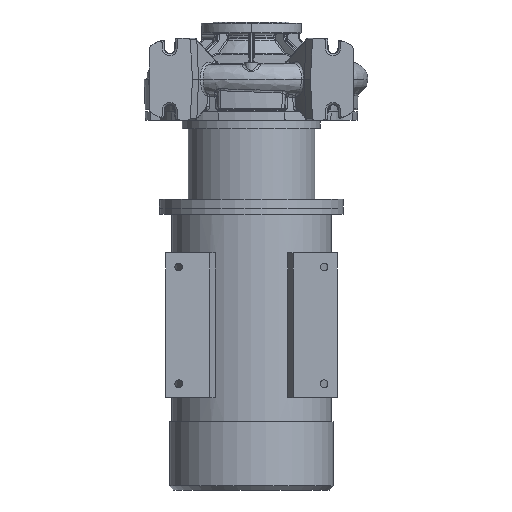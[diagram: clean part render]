
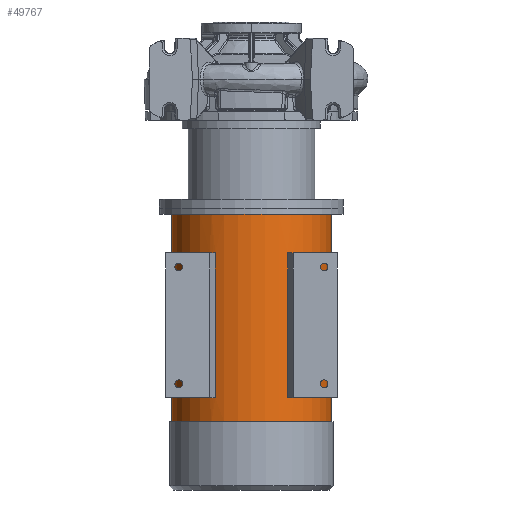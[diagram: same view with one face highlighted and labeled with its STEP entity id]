
A CAD part, front view. The second image highlights one B-rep face of the part: STEP entity #49767.
In plain terms, the highlighted cylindrical face has radius 195 mm (diameter 390 mm), a partial arc.
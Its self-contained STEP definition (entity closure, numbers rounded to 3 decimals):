
#12 = VECTOR ( 'NONE', #37400, 1000. ) ;
#2118 = VERTEX_POINT ( 'NONE', #72046 ) ;
#2540 = VECTOR ( 'NONE', #66927, 1000. ) ;
#2651 = VERTEX_POINT ( 'NONE', #27589 ) ;
#3274 = DIRECTION ( 'NONE',  ( -1., 0., 0. ) ) ;
#3698 = LINE ( 'NONE', #92478, #77367 ) ;
#4647 = ORIENTED_EDGE ( 'NONE', *, *, #33806, .T. ) ;
#5630 = FACE_BOUND ( 'NONE', #70150, .T. ) ;
#5697 = CARTESIAN_POINT ( 'NONE',  ( 0., 0., -838.8 ) ) ;
#5837 = ORIENTED_EDGE ( 'NONE', *, *, #9714, .F. ) ;
#8211 = AXIS2_PLACEMENT_3D ( 'NONE', #24956, #74934, #25263 ) ;
#9373 = CARTESIAN_POINT ( 'NONE',  ( 195., 0., -838.8 ) ) ;
#9714 = EDGE_CURVE ( 'NONE', #17763, #51097, #88187, .T. ) ;
#10422 = CARTESIAN_POINT ( 'NONE',  ( -102.509, -165.882, -1005.8 ) ) ;
#12562 = CARTESIAN_POINT ( 'NONE',  ( 88.564, -173.728, -780.3 ) ) ;
#16354 = VERTEX_POINT ( 'NONE', #51050 ) ;
#16417 = CIRCLE ( 'NONE', #8211, 195. ) ;
#17197 = CARTESIAN_POINT ( 'NONE',  ( 102.509, -165.882, -425.3 ) ) ;
#17429 = DIRECTION ( 'NONE',  ( -1., 0., 0. ) ) ;
#17441 = EDGE_CURVE ( 'NONE', #51097, #45296, #45331, .T. ) ;
#17484 = EDGE_CURVE ( 'NONE', #17763, #2651, #87850, .T. ) ;
#17712 = CARTESIAN_POINT ( 'NONE',  ( -88.564, -173.728, -425.3 ) ) ;
#17763 = VERTEX_POINT ( 'NONE', #74866 ) ;
#18792 = ORIENTED_EDGE ( 'NONE', *, *, #32421, .F. ) ;
#20415 = ORIENTED_EDGE ( 'NONE', *, *, #17441, .F. ) ;
#21226 = ORIENTED_EDGE ( 'NONE', *, *, #27198, .T. ) ;
#21420 = LINE ( 'NONE', #10422, #2540 ) ;
#22203 = EDGE_CURVE ( 'NONE', #29530, #16354, #70809, .T. ) ;
#24956 = CARTESIAN_POINT ( 'NONE',  ( 0., 0., -780.3 ) ) ;
#25069 = EDGE_CURVE ( 'NONE', #2118, #54634, #3698, .T. ) ;
#25263 = DIRECTION ( 'NONE',  ( -1., 0., 0. ) ) ;
#25920 = CARTESIAN_POINT ( 'NONE',  ( 88.564, -173.728, -1005.8 ) ) ;
#26829 = DIRECTION ( 'NONE',  ( 0., 0., -1. ) ) ;
#26853 = ORIENTED_EDGE ( 'NONE', *, *, #86162, .F. ) ;
#27198 = EDGE_CURVE ( 'NONE', #2651, #45296, #77281, .T. ) ;
#27589 = CARTESIAN_POINT ( 'NONE',  ( -195., 0., -330.8 ) ) ;
#27916 = CARTESIAN_POINT ( 'NONE',  ( -195., 0., -838.8 ) ) ;
#29530 = VERTEX_POINT ( 'NONE', #17197 ) ;
#30651 = CARTESIAN_POINT ( 'NONE',  ( 0., 0., -425.3 ) ) ;
#32281 = FACE_OUTER_BOUND ( 'NONE', #62553, .T. ) ;
#32316 = AXIS2_PLACEMENT_3D ( 'NONE', #30651, #45944, #3274 ) ;
#32421 = EDGE_CURVE ( 'NONE', #53053, #2118, #85718, .T. ) ;
#32742 = DIRECTION ( 'NONE',  ( 0., 0., 1. ) ) ;
#33247 = VERTEX_POINT ( 'NONE', #12562 ) ;
#33337 = DIRECTION ( 'NONE',  ( -1., 0., 0. ) ) ;
#33806 = EDGE_CURVE ( 'NONE', #67509, #29530, #35324, .T. ) ;
#34891 = AXIS2_PLACEMENT_3D ( 'NONE', #71805, #57445, #40832 ) ;
#35324 = CIRCLE ( 'NONE', #57936, 195. ) ;
#36087 = DIRECTION ( 'NONE',  ( 0., 0., -1. ) ) ;
#36180 = ORIENTED_EDGE ( 'NONE', *, *, #25069, .F. ) ;
#37400 = DIRECTION ( 'NONE',  ( 0., 0., -1. ) ) ;
#39150 = EDGE_CURVE ( 'NONE', #33247, #67509, #53044, .T. ) ;
#39527 = DIRECTION ( 'NONE',  ( 0., 0., 1. ) ) ;
#40832 = DIRECTION ( 'NONE',  ( -1., 0., 0. ) ) ;
#41256 = CYLINDRICAL_SURFACE ( 'NONE', #80992, 195. ) ;
#41739 = VECTOR ( 'NONE', #46866, 1000. ) ;
#42523 = CARTESIAN_POINT ( 'NONE',  ( -102.509, -165.882, -425.3 ) ) ;
#42809 = AXIS2_PLACEMENT_3D ( 'NONE', #66767, #39527, #17429 ) ;
#43713 = CARTESIAN_POINT ( 'NONE',  ( -102.509, -165.882, -780.3 ) ) ;
#45296 = VERTEX_POINT ( 'NONE', #27916 ) ;
#45331 = CIRCLE ( 'NONE', #84619, 195. ) ;
#45471 = EDGE_CURVE ( 'NONE', #51780, #53053, #21420, .T. ) ;
#45944 = DIRECTION ( 'NONE',  ( 0., 0., 1. ) ) ;
#46866 = DIRECTION ( 'NONE',  ( 0., 0., -1. ) ) ;
#47975 = FACE_BOUND ( 'NONE', #66550, .T. ) ;
#49738 = ORIENTED_EDGE ( 'NONE', *, *, #45471, .F. ) ;
#49767 = ADVANCED_FACE ( 'NONE', ( #32281, #5630, #47975 ), #41256, .T. ) ;
#51050 = CARTESIAN_POINT ( 'NONE',  ( 102.509, -165.882, -780.3 ) ) ;
#51097 = VERTEX_POINT ( 'NONE', #9373 ) ;
#51780 = VERTEX_POINT ( 'NONE', #42523 ) ;
#53044 = LINE ( 'NONE', #25920, #59773 ) ;
#53053 = VERTEX_POINT ( 'NONE', #43713 ) ;
#54627 = DIRECTION ( 'NONE',  ( 0., 0., 1. ) ) ;
#54634 = VERTEX_POINT ( 'NONE', #17712 ) ;
#55239 = CARTESIAN_POINT ( 'NONE',  ( 0., 0., -425.3 ) ) ;
#57445 = DIRECTION ( 'NONE',  ( 0., 0., -1. ) ) ;
#57936 = AXIS2_PLACEMENT_3D ( 'NONE', #55239, #32742, #33337 ) ;
#59773 = VECTOR ( 'NONE', #54627, 1000. ) ;
#62553 = EDGE_LOOP ( 'NONE', ( #5837, #68405, #21226, #20415 ) ) ;
#63595 = ORIENTED_EDGE ( 'NONE', *, *, #39150, .T. ) ;
#66550 = EDGE_LOOP ( 'NONE', ( #63595, #4647, #86496, #26853 ) ) ;
#66767 = CARTESIAN_POINT ( 'NONE',  ( 0., 0., -780.3 ) ) ;
#66927 = DIRECTION ( 'NONE',  ( 0., 0., -1. ) ) ;
#67509 = VERTEX_POINT ( 'NONE', #80709 ) ;
#68145 = CARTESIAN_POINT ( 'NONE',  ( 102.509, -165.882, -1005.8 ) ) ;
#68405 = ORIENTED_EDGE ( 'NONE', *, *, #17484, .T. ) ;
#70150 = EDGE_LOOP ( 'NONE', ( #36180, #18792, #49738, #72305 ) ) ;
#70547 = VECTOR ( 'NONE', #36087, 1000. ) ;
#70809 = LINE ( 'NONE', #68145, #41739 ) ;
#71294 = EDGE_CURVE ( 'NONE', #51780, #54634, #83003, .T. ) ;
#71805 = CARTESIAN_POINT ( 'NONE',  ( 0., 0., -330.8 ) ) ;
#72046 = CARTESIAN_POINT ( 'NONE',  ( -88.564, -173.728, -780.3 ) ) ;
#72305 = ORIENTED_EDGE ( 'NONE', *, *, #71294, .T. ) ;
#74866 = CARTESIAN_POINT ( 'NONE',  ( 195., 0., -330.8 ) ) ;
#74934 = DIRECTION ( 'NONE',  ( 0., 0., 1. ) ) ;
#75441 = DIRECTION ( 'NONE',  ( 0., 0., -1. ) ) ;
#77281 = LINE ( 'NONE', #84880, #70547 ) ;
#77367 = VECTOR ( 'NONE', #84079, 1000. ) ;
#80709 = CARTESIAN_POINT ( 'NONE',  ( 88.564, -173.728, -425.3 ) ) ;
#80992 = AXIS2_PLACEMENT_3D ( 'NONE', #83253, #75441, #90436 ) ;
#83003 = CIRCLE ( 'NONE', #32316, 195. ) ;
#83253 = CARTESIAN_POINT ( 'NONE',  ( 0., 0., -1005.8 ) ) ;
#84079 = DIRECTION ( 'NONE',  ( 0., 0., 1. ) ) ;
#84619 = AXIS2_PLACEMENT_3D ( 'NONE', #5697, #26829, #91468 ) ;
#84880 = CARTESIAN_POINT ( 'NONE',  ( -195., 0., -1005.8 ) ) ;
#85718 = CIRCLE ( 'NONE', #42809, 195. ) ;
#86162 = EDGE_CURVE ( 'NONE', #33247, #16354, #16417, .T. ) ;
#86496 = ORIENTED_EDGE ( 'NONE', *, *, #22203, .T. ) ;
#87138 = CARTESIAN_POINT ( 'NONE',  ( 195., 0., -1005.8 ) ) ;
#87850 = CIRCLE ( 'NONE', #34891, 195. ) ;
#88187 = LINE ( 'NONE', #87138, #12 ) ;
#90436 = DIRECTION ( 'NONE',  ( -1., 0., 0. ) ) ;
#91468 = DIRECTION ( 'NONE',  ( -1., 0., 0. ) ) ;
#92478 = CARTESIAN_POINT ( 'NONE',  ( -88.564, -173.728, -1005.8 ) ) ;
